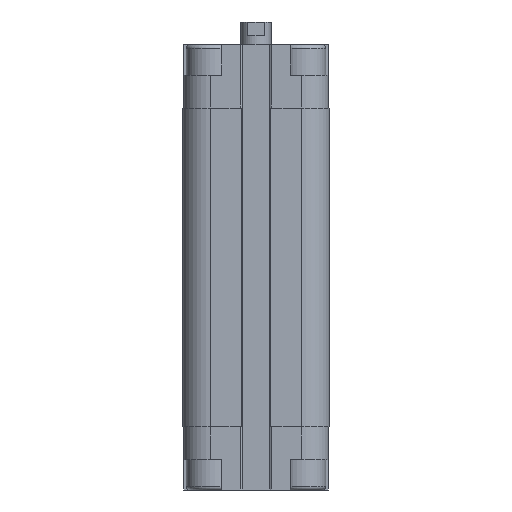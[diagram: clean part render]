
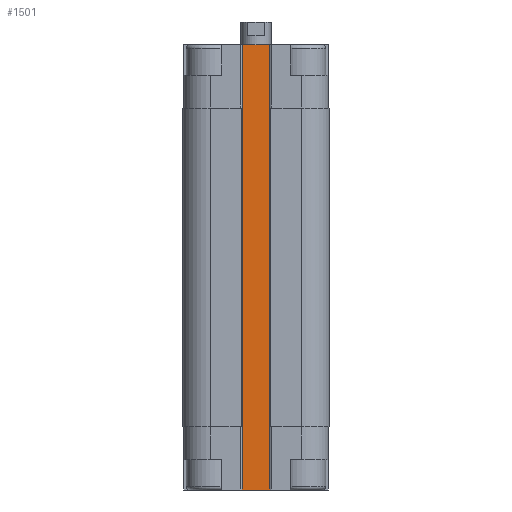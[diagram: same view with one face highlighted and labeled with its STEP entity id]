
A CAD part, front view. The second image highlights one B-rep face of the part: STEP entity #1501.
In plain terms, the highlighted planar face has unit normal (0, -1, 0).
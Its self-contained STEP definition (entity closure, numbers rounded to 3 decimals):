
#159 = ORIENTED_EDGE ( 'NONE', *, *, #6097, .T. ) ;
#249 = ORIENTED_EDGE ( 'NONE', *, *, #12201, .F. ) ;
#359 = ORIENTED_EDGE ( 'NONE', *, *, #15905, .F. ) ;
#452 = CARTESIAN_POINT ( 'NONE',  ( -3.2, -9.5, -75.5 ) ) ;
#612 = AXIS2_PLACEMENT_3D ( 'NONE', #6520, #9166, #10304 ) ;
#873 = LINE ( 'NONE', #2192, #1636 ) ;
#1251 = VERTEX_POINT ( 'NONE', #1554 ) ;
#1414 = LINE ( 'NONE', #1495, #17006 ) ;
#1495 = CARTESIAN_POINT ( 'NONE',  ( -3., -9.5, -12.5 ) ) ;
#1501 = ADVANCED_FACE ( 'NONE', ( #11877 ), #2239, .T. ) ;
#1544 = LINE ( 'NONE', #12236, #16163 ) ;
#1554 = CARTESIAN_POINT ( 'NONE',  ( 3., -9.5, -12.5 ) ) ;
#1636 = VECTOR ( 'NONE', #15272, 1000. ) ;
#1805 = ORIENTED_EDGE ( 'NONE', *, *, #12634, .F. ) ;
#2192 = CARTESIAN_POINT ( 'NONE',  ( -3., -9.5, 0. ) ) ;
#2239 = PLANE ( 'NONE',  #612 ) ;
#2358 = ORIENTED_EDGE ( 'NONE', *, *, #7825, .T. ) ;
#2376 = VERTEX_POINT ( 'NONE', #10931 ) ;
#2410 = CARTESIAN_POINT ( 'NONE',  ( -3., -9.5, -88. ) ) ;
#2604 = VECTOR ( 'NONE', #17287, 1000. ) ;
#3062 = LINE ( 'NONE', #8404, #12047 ) ;
#3124 = CARTESIAN_POINT ( 'NONE',  ( -3.2, -9.5, -12.5 ) ) ;
#3203 = EDGE_LOOP ( 'NONE', ( #15976, #359, #1805, #9129, #159, #9472, #2358, #12601, #11714, #8605, #249, #16002 ) ) ;
#3207 = DIRECTION ( 'NONE',  ( 1., 0., 0. ) ) ;
#3313 = VERTEX_POINT ( 'NONE', #13608 ) ;
#3769 = DIRECTION ( 'NONE',  ( 1., 0., 0. ) ) ;
#4058 = EDGE_CURVE ( 'NONE', #10854, #7654, #1544, .T. ) ;
#4248 = DIRECTION ( 'NONE',  ( 0., 0., 1. ) ) ;
#4285 = DIRECTION ( 'NONE',  ( 0., 0., 1. ) ) ;
#4289 = EDGE_CURVE ( 'NONE', #14671, #2376, #14598, .T. ) ;
#4302 = CARTESIAN_POINT ( 'NONE',  ( 3.2, -9.5, -75.5 ) ) ;
#5778 = DIRECTION ( 'NONE',  ( 1., 0., 0. ) ) ;
#5806 = LINE ( 'NONE', #13975, #14919 ) ;
#5851 = CARTESIAN_POINT ( 'NONE',  ( 3., -9.5, -88. ) ) ;
#5878 = CARTESIAN_POINT ( 'NONE',  ( -3.2, -9.5, -75.5 ) ) ;
#6097 = EDGE_CURVE ( 'NONE', #10854, #2376, #9737, .T. ) ;
#6243 = DIRECTION ( 'NONE',  ( 0., 0., 1. ) ) ;
#6508 = VERTEX_POINT ( 'NONE', #12677 ) ;
#6520 = CARTESIAN_POINT ( 'NONE',  ( -3., -9.5, -12.5 ) ) ;
#6747 = VERTEX_POINT ( 'NONE', #10385 ) ;
#7074 = DIRECTION ( 'NONE',  ( 0., 0., 1. ) ) ;
#7654 = VERTEX_POINT ( 'NONE', #3124 ) ;
#7825 = EDGE_CURVE ( 'NONE', #14671, #11199, #12907, .T. ) ;
#8404 = CARTESIAN_POINT ( 'NONE',  ( 3.2, -9.5, -75.5 ) ) ;
#8560 = EDGE_CURVE ( 'NONE', #14803, #6747, #3062, .T. ) ;
#8605 = ORIENTED_EDGE ( 'NONE', *, *, #8560, .T. ) ;
#9119 = LINE ( 'NONE', #13502, #9859 ) ;
#9129 = ORIENTED_EDGE ( 'NONE', *, *, #4058, .F. ) ;
#9166 = DIRECTION ( 'NONE',  ( 0., -1., 0. ) ) ;
#9293 = LINE ( 'NONE', #14653, #9377 ) ;
#9363 = LINE ( 'NONE', #16054, #2604 ) ;
#9377 = VECTOR ( 'NONE', #7074, 1000. ) ;
#9417 = CARTESIAN_POINT ( 'NONE',  ( -3., -9.5, 0. ) ) ;
#9472 = ORIENTED_EDGE ( 'NONE', *, *, #4289, .F. ) ;
#9737 = LINE ( 'NONE', #452, #11997 ) ;
#9859 = VECTOR ( 'NONE', #3769, 1000. ) ;
#10304 = DIRECTION ( 'NONE',  ( -1., 0., 0. ) ) ;
#10378 = VERTEX_POINT ( 'NONE', #9417 ) ;
#10385 = CARTESIAN_POINT ( 'NONE',  ( 3.2, -9.5, -12.5 ) ) ;
#10854 = VERTEX_POINT ( 'NONE', #13177 ) ;
#10931 = CARTESIAN_POINT ( 'NONE',  ( -3., -9.5, -75.5 ) ) ;
#11199 = VERTEX_POINT ( 'NONE', #5851 ) ;
#11714 = ORIENTED_EDGE ( 'NONE', *, *, #16698, .T. ) ;
#11877 = FACE_OUTER_BOUND ( 'NONE', #3203, .T. ) ;
#11997 = VECTOR ( 'NONE', #5778, 1000. ) ;
#12047 = VECTOR ( 'NONE', #13762, 1000. ) ;
#12120 = EDGE_CURVE ( 'NONE', #1251, #3313, #5806, .T. ) ;
#12201 = EDGE_CURVE ( 'NONE', #1251, #6747, #9119, .T. ) ;
#12236 = CARTESIAN_POINT ( 'NONE',  ( -3.2, -9.5, -75.5 ) ) ;
#12601 = ORIENTED_EDGE ( 'NONE', *, *, #14034, .T. ) ;
#12634 = EDGE_CURVE ( 'NONE', #7654, #12882, #9363, .T. ) ;
#12677 = CARTESIAN_POINT ( 'NONE',  ( 3., -9.5, -75.5 ) ) ;
#12819 = VECTOR ( 'NONE', #15202, 1000. ) ;
#12882 = VERTEX_POINT ( 'NONE', #16818 ) ;
#12907 = LINE ( 'NONE', #15231, #13137 ) ;
#13005 = CARTESIAN_POINT ( 'NONE',  ( -3., -9.5, -88. ) ) ;
#13066 = VECTOR ( 'NONE', #6243, 1000. ) ;
#13067 = DIRECTION ( 'NONE',  ( 0., 0., 1. ) ) ;
#13137 = VECTOR ( 'NONE', #3207, 1000. ) ;
#13177 = CARTESIAN_POINT ( 'NONE',  ( -3.2, -9.5, -75.5 ) ) ;
#13502 = CARTESIAN_POINT ( 'NONE',  ( 9., -9.5, -12.5 ) ) ;
#13608 = CARTESIAN_POINT ( 'NONE',  ( 3., -9.5, 0. ) ) ;
#13762 = DIRECTION ( 'NONE',  ( 0., 0., 1. ) ) ;
#13975 = CARTESIAN_POINT ( 'NONE',  ( 3., -9.5, -12.5 ) ) ;
#14034 = EDGE_CURVE ( 'NONE', #11199, #6508, #9293, .T. ) ;
#14598 = LINE ( 'NONE', #2410, #13066 ) ;
#14653 = CARTESIAN_POINT ( 'NONE',  ( 3., -9.5, -88. ) ) ;
#14671 = VERTEX_POINT ( 'NONE', #13005 ) ;
#14803 = VERTEX_POINT ( 'NONE', #4302 ) ;
#14919 = VECTOR ( 'NONE', #13067, 1000. ) ;
#15202 = DIRECTION ( 'NONE',  ( 1., 0., 0. ) ) ;
#15231 = CARTESIAN_POINT ( 'NONE',  ( -3., -9.5, -88. ) ) ;
#15272 = DIRECTION ( 'NONE',  ( 1., 0., 0. ) ) ;
#15905 = EDGE_CURVE ( 'NONE', #12882, #10378, #1414, .T. ) ;
#15976 = ORIENTED_EDGE ( 'NONE', *, *, #17184, .F. ) ;
#16002 = ORIENTED_EDGE ( 'NONE', *, *, #12120, .T. ) ;
#16054 = CARTESIAN_POINT ( 'NONE',  ( -3.2, -9.5, -12.5 ) ) ;
#16163 = VECTOR ( 'NONE', #4248, 1000. ) ;
#16348 = LINE ( 'NONE', #5878, #12819 ) ;
#16698 = EDGE_CURVE ( 'NONE', #6508, #14803, #16348, .T. ) ;
#16818 = CARTESIAN_POINT ( 'NONE',  ( -3., -9.5, -12.5 ) ) ;
#17006 = VECTOR ( 'NONE', #4285, 1000. ) ;
#17184 = EDGE_CURVE ( 'NONE', #10378, #3313, #873, .T. ) ;
#17287 = DIRECTION ( 'NONE',  ( 1., 0., 0. ) ) ;
